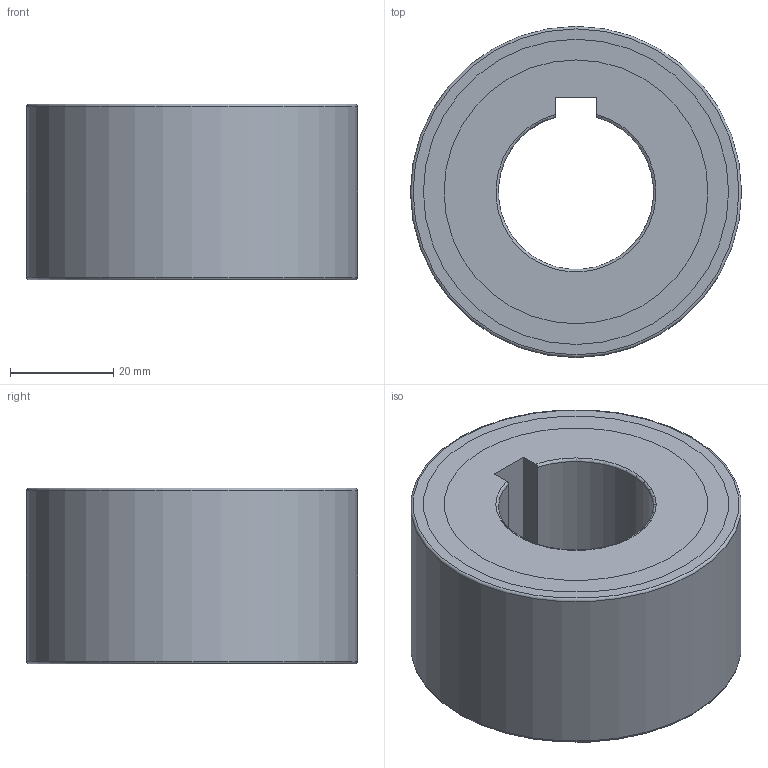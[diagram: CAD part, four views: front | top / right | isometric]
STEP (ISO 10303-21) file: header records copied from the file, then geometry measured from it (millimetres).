
FILE_DESCRIPTION(/* description */ (''),/* implementation_level */ '2;1');
FILE_NAME(/* name */ '300760 FND 459 Z.stp',/* time_stamp */ '2016-11-17T08:35:16+01:00',/* author */ (''),/* organization */ (''),/* preprocessor_version */ 'ST-DEVELOPER v15',/* originating_system */ 'SIEMENS PLM Software NX 8.5',/* authorisation */ '');
FILE_SCHEMA (('CONFIG_CONTROL_DESIGN'));
Length unit declared in the file: millimetre
Products named in the file (1): ATE0000091_01
Bounding box: 64 x 64 x 34 mm (x, y, z)
Volume: 72892.7 mm3; surface area: 34711.9 mm2
Topology: 4 solids, 4 shells, 31 faces, 59 edges, 38 vertices
Faces by surface type: plane 13, cylinder 12, torus 6
Full cylindrical faces by diameter (mm): 51 x5, 59 x5, 64 x1
Entity records: 857 total; most frequent: CARTESIAN_POINT 185, DIRECTION 130, ORIENTED_EDGE 84, AXIS2_PLACEMENT_3D 60, EDGE_LOOP 56, FACE_BOUND 50, EDGE_CURVE 42, VERTEX_POINT 36
